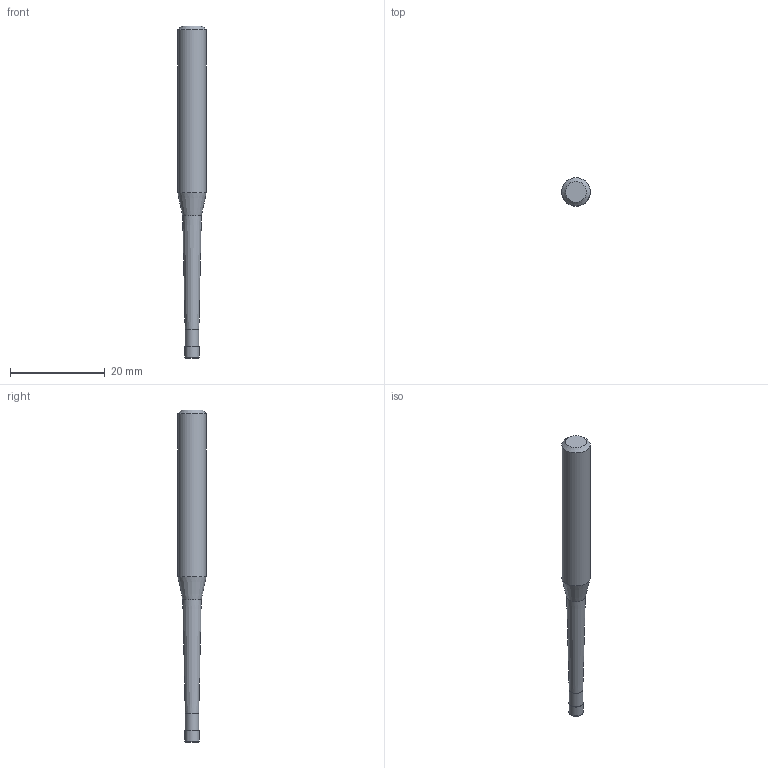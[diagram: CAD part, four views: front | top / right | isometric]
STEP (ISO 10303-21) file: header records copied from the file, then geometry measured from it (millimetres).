
FILE_DESCRIPTION((''),'2;1');
FILE_NAME('C:\Users\nsx150\AppData\Local\Temp\Mastercam 2021\YKS1SUSFZB\TEMP.step','2025-06-23T14:04:51',(''),(''),'STEP Write','Mastercam 2021 ... CNC Software, Inc.','');
FILE_SCHEMA(('AUTOMOTIVE_DESIGN'));
Length unit declared in the file: millimetre
Products named in the file (1): None
Bounding box: 6 x 6 x 70 mm (x, y, z)
Volume: 1345.5 mm3; surface area: 1091.1 mm2
Topology: 2 solids, 2 shells, 11 faces, 16 edges, 9 vertices
Faces by surface type: plane 4, cylinder 3, cone 3, torus 1
Full cylindrical faces by diameter (mm): 2.885 x1, 3 x1, 6 x1
Entity records: 253 total; most frequent: DIRECTION 44, CARTESIAN_POINT 31, AXIS2_PLACEMENT_3D 22, ORIENTED_EDGE 18, EDGE_LOOP 18, STYLED_ITEM 14, ADVANCED_FACE 11, FACE_BOUND 11
